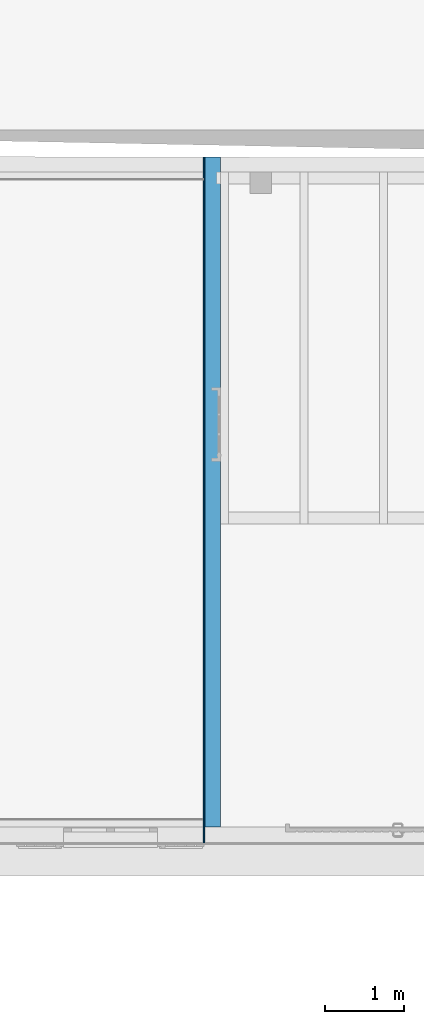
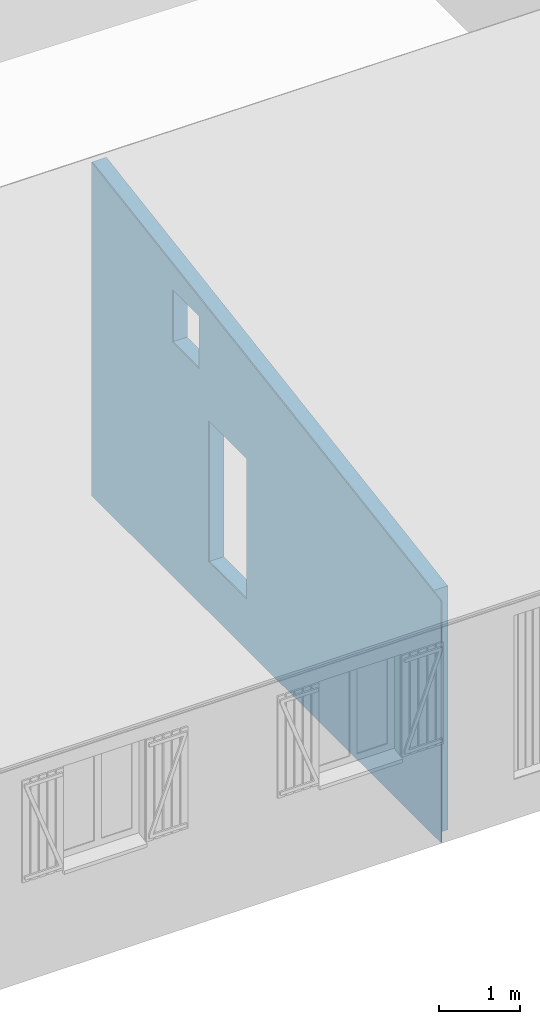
# One storey, part 10 of 12: 2 building element parts, 2 openings, 1 element without a shape of its own.
"""IFC2X3 building model written with IfcOpenShell, lengths in metres."""

import ifcopenshell
import ifcopenshell.guid

model = None  # the IFC model being written
_history = None  # IfcOwnerHistory: only IFC2X3 demands one
_inside = {}  # id of a spatial element -> (the spatial element, [elements in it])
_under = {}  # id of a project, library or spatial element -> (it, [spatial elements below it])
_declared = {}  # id of a project -> (the project, [libraries it declares])
_typed = {}  # id of a type object -> (the type object, [elements of that type])
_made_of = {}  # id of a material, layer set ... -> (it, [elements and type objects made of it])


def new_model(schema):
    """Start an empty IFC model of exactly this schema.

    Asked for "IFC4X3", IfcOpenShell would pick the latest addendum, in which some entities
    have other attributes; the version numbers below select the first issue.
    IFC2X3 requires an IfcOwnerHistory on every rooted entity: one is made here for all.
    """
    global model, _history
    if schema == "IFC4X3":
        model = ifcopenshell.file(schema_version=(4, 3, 0, 0))
    else:
        model = ifcopenshell.file(schema=schema)
    _inside.clear()
    _under.clear()
    _declared.clear()
    _typed.clear()
    _made_of.clear()
    _history = None
    if model.schema == "IFC2X3":
        org = make("IfcOrganization", Name="unknown")
        user = make(
            "IfcPersonAndOrganization",
            ThePerson=make("IfcPerson", FamilyName="unknown"),
            TheOrganization=org,
        )
        app = make(
            "IfcApplication",
            ApplicationDeveloper=org,
            Version="unknown",
            ApplicationFullName="unknown",
            ApplicationIdentifier="unknown",
        )
        _history = make(
            "IfcOwnerHistory",
            OwningUser=user,
            OwningApplication=app,
            ChangeAction="ADDED",
            CreationDate=0,
        )
    return model


def make(cls, **values):
    """One entity of the class cls with the attributes given. An attribute that is None is left unset."""
    return model.create_entity(
        cls, **{name: value for name, value in values.items() if value is not None}
    )


def entity(cls, *values):
    """Any entity or typed value of the class cls, its attributes in the order of the schema. None: left unset."""
    e = model.create_entity(cls)
    for i, value in enumerate(values):
        if value is not None:
            e[i] = value
    return e


def rooted(cls, **values):
    """An entity with a GlobalId (a new one), such as an element, a storey or a relation."""
    return make(cls, GlobalId=ifcopenshell.guid.new(), OwnerHistory=_history, **values)


def si_unit(unit_type, name, prefix=None):
    """IfcSIUnit, for example si_unit("LENGTHUNIT", "METRE", prefix="MILLI")."""
    return make("IfcSIUnit", UnitType=unit_type, Prefix=prefix, Name=name)


def converted_unit(unit_type, name, factor, base, dimensions=None, offset=None):
    """IfcConversionBasedUnit, such as the inch: factor (a typed value) times the base unit."""
    return make(
        "IfcConversionBasedUnit"
        if offset is None
        else "IfcConversionBasedUnitWithOffset",
        ConversionOffset=offset,
        Dimensions=None
        if dimensions is None
        else entity("IfcDimensionalExponents", *dimensions),
        UnitType=unit_type,
        Name=name,
        ConversionFactor=make(
            "IfcMeasureWithUnit", ValueComponent=factor, UnitComponent=base
        ),
    )


def derived_unit(unit_type, elements):
    """IfcDerivedUnit: a product of units, each with its exponent."""
    return make(
        "IfcDerivedUnit",
        Elements=[
            make("IfcDerivedUnitElement", Unit=unit, Exponent=power)
            for unit, power in elements
        ],
        UnitType=unit_type,
    )


def money_unit(currency):
    """IfcMonetaryUnit."""
    return make("IfcMonetaryUnit", Currency=currency)


def assignment(units):
    """IfcUnitAssignment: the units of a project."""
    return None if units is None else make("IfcUnitAssignment", Units=units)


def point(xyz):
    """IfcCartesianPoint."""
    return None if xyz is None else make("IfcCartesianPoint", Coordinates=xyz)


def direction(xyz):
    """IfcDirection."""
    return None if xyz is None else make("IfcDirection", DirectionRatios=xyz)


def frame(location, z_axis=None, x_axis=None):
    """IfcAxis2Placement3D, a coordinate frame: its origin and axes. An axis left out is left unset."""
    return make(
        "IfcAxis2Placement3D",
        Location=point(location),
        Axis=direction(z_axis),
        RefDirection=direction(x_axis),
    )


def frame_2d(location, x_axis=None):
    """IfcAxis2Placement2D, a coordinate frame in the plane: its origin and x axis."""
    return make(
        "IfcAxis2Placement2D", Location=point(location), RefDirection=direction(x_axis)
    )


def origin_with_axes():
    """The frame at (0, 0, 0) with the z axis (0, 0, 1) and the x axis (1, 0, 0) written out."""
    return frame((0.0, 0.0, 0.0), z_axis=(0.0, 0.0, 1.0), x_axis=(1.0, 0.0, 0.0))


def origin_2d_with_axis():
    """The frame at (0, 0) in the plane with the x axis (1, 0) written out."""
    return frame_2d((0.0, 0.0), x_axis=(1.0, 0.0))


def place(relative_to, where):
    """IfcLocalPlacement: puts the frame where relative to a parent placement (None: the world)."""
    return make(
        "IfcLocalPlacement", PlacementRelTo=relative_to, RelativePlacement=where
    )


def context(
    kind, dimensions, precision=None, world=None, true_north=None, identifier=None
):
    """IfcGeometricRepresentationContext, for example the 3D "Model" context."""
    return make(
        "IfcGeometricRepresentationContext",
        ContextIdentifier=identifier,
        ContextType=kind,
        CoordinateSpaceDimension=dimensions,
        Precision=precision,
        WorldCoordinateSystem=world,
        TrueNorth=true_north,
    )


def subcontext(parent, identifier, kind, view, scale=None):
    """IfcGeometricRepresentationSubContext, for example "Body" below "Model"."""
    return make(
        "IfcGeometricRepresentationSubContext",
        ContextIdentifier=identifier,
        ContextType=kind,
        ParentContext=parent,
        TargetScale=scale,
        TargetView=view,
    )


def project(units=None, contexts=None):
    """IfcProject with its units and contexts."""
    return rooted(
        "IfcProject",
        Name="project",
        RepresentationContexts=contexts,
        UnitsInContext=assignment(units),
    )


def spatial(cls, under=None, at=None, **own):
    """A site, building, storey or space (cls), placed at a placement, below another one or the project."""
    s = rooted(cls, ObjectPlacement=at, **own)
    if under is not None:
        _under.setdefault(under.id(), (under, []))[1].append(s)
    return s


def polyline(points):
    """IfcPolyline through the points."""
    return make("IfcPolyline", Points=[point(p) for p in points])


def profile(cls, at=None, kind="AREA", **sizes):
    """A parametric profile (cls). Its sizes go by their IFC names, for example OverallWidth=200.0."""
    return make(cls, ProfileType=kind, Position=at, **sizes)


def rectangle(**sizes):
    """IfcRectangleProfileDef."""
    return profile("IfcRectangleProfileDef", **sizes)


def outline(outer, holes=None, kind="AREA"):
    """IfcArbitraryClosedProfileDef: a profile drawn as a closed curve; with holes, ...WithVoids."""
    if holes is None:
        return make("IfcArbitraryClosedProfileDef", ProfileType=kind, OuterCurve=outer)
    return make(
        "IfcArbitraryProfileDefWithVoids",
        ProfileType=kind,
        OuterCurve=outer,
        InnerCurves=holes,
    )


def extrude(swept, where, along, depth):
    """IfcExtrudedAreaSolid: the profile swept, set in the frame where, extruded along a direction by depth."""
    return make(
        "IfcExtrudedAreaSolid",
        SweptArea=swept,
        Position=where,
        ExtrudedDirection=direction(along),
        Depth=depth,
    )


def boolean(op, a, b):
    """IfcBooleanResult of two solids."""
    return make("IfcBooleanResult", Operator=op, FirstOperand=a, SecondOperand=b)


def faces_of(points, faces, orient=None, outer=None):
    """IfcFace entities. A face is a list of loops; a loop is a list of indices into points, from 0.

    orient and outer hold one flag for each loop. By default every Orientation is true, the
    first loop of a face is its IfcFaceOuterBound and the others are IfcFaceBound.
    """
    made = []
    for i, loops in enumerate(faces):
        bounds = []
        for j, loop in enumerate(loops):
            is_outer = j == 0 if outer is None else outer[i][j]
            bounds.append(
                make(
                    "IfcFaceOuterBound" if is_outer else "IfcFaceBound",
                    Bound=make("IfcPolyLoop", Polygon=[points[k] for k in loop]),
                    Orientation=True if orient is None else orient[i][j],
                )
            )
        made.append(make("IfcFace", Bounds=bounds))
    return made


def faceted_brep(points, faces, orient=None, outer=None, voids=None):
    """IfcFacetedBrep: a solid bounded by flat faces; with voids (closed shells), ...WithVoids."""
    shared = [point(p) for p in points]
    hull = make("IfcClosedShell", CfsFaces=faces_of(shared, faces, orient, outer))
    if voids is None:
        return make("IfcFacetedBrep", Outer=hull)
    return make(
        "IfcFacetedBrepWithVoids",
        Outer=hull,
        Voids=[
            make(cls, CfsFaces=faces_of(shared, fs, o, b)) for cls, fs, o, b in voids
        ],
    )


def shape(context_of_items, identifier, shape_type, items):
    """IfcShapeRepresentation: the items that make up one representation, for example the "Body"."""
    return make(
        "IfcShapeRepresentation",
        ContextOfItems=context_of_items,
        RepresentationIdentifier=identifier,
        RepresentationType=shape_type,
        Items=items,
    )


def material(Name=None, Category=None):
    """IfcMaterial."""
    return make("IfcMaterial", Name=Name, Category=Category)


def made_of(thing, what):
    """Note that an element or type object is made of a material, layer set ...; save() writes the relation."""
    if what is not None:
        _made_of.setdefault(what.id(), (what, []))[1].append(thing)
    return thing


def type_object(cls, material=None, **own):
    """A type object (cls), such as IfcWallType, which elements share."""
    return made_of(rooted(cls, **own), material)


def element(
    cls,
    number,
    at=None,
    inside=None,
    cuts=None,
    type_object=None,
    material=None,
    context=None,
    identifier="Body",
    shape_type=None,
    held_by="IfcProductDefinitionShape",
    body=None,
    shapes=None,
    **own,
):
    """One element of the class cls, such as IfcWall. Its Tag is "e" and its number.

    at: its placement. inside: the storey or other place that contains it. cuts: it is an
    opening in that element (IfcRelVoidsElement). A single representation is given by context,
    identifier, shape_type and body (its items); several are given by shapes. held_by: the class
    of the entity that holds the representations. save() writes the other relations.
    """
    e = rooted(cls, Tag="e%d" % number, ObjectPlacement=at, **own)
    if body is not None:
        shapes = [shape(context, identifier, shape_type, body)]
    if shapes is not None:
        e.Representation = make(held_by, Representations=shapes)
    if inside is not None:
        _inside.setdefault(inside.id(), (inside, []))[1].append(e)
    if cuts is not None:
        rooted(
            "IfcRelVoidsElement", RelatingBuildingElement=cuts, RelatedOpeningElement=e
        )
    if type_object is not None:
        _typed.setdefault(type_object.id(), (type_object, []))[1].append(e)
    return made_of(e, material)


def aggregate(whole, parts):
    """IfcRelAggregates: a whole, such as a stair, and the parts it consists of."""
    return rooted("IfcRelAggregates", RelatingObject=whole, RelatedObjects=parts)


def save(model, path):
    """Write the relations noted so far, then the file.

    IfcRelAggregates (storeys below a building ...), IfcRelContainedInSpatialStructure (elements
    in a storey), IfcRelDefinesByType, IfcRelAssociatesMaterial and IfcRelDeclares: one each for
    every whole, place, type object, material and project.
    """
    for whole, parts in _under.values():
        aggregate(whole, parts)
    for where, things in _inside.values():
        rooted(
            "IfcRelContainedInSpatialStructure",
            RelatedElements=things,
            RelatingStructure=where,
        )
    for kind, things in _typed.values():
        rooted("IfcRelDefinesByType", RelatedObjects=things, RelatingType=kind)
    for what, things in _made_of.values():
        rooted("IfcRelAssociatesMaterial", RelatedObjects=things, RelatingMaterial=what)
    for by, libraries in _declared.values():
        rooted("IfcRelDeclares", RelatingContext=by, RelatedDefinitions=libraries)
    model.write(path)


model = new_model("IFC2X3")

# Units and contexts
model_context = context("Model", 3, precision=1e-05, world=origin_with_axes(), true_north=direction((0.0, 1.0)))
body_context = subcontext(model_context, "Body", "Model", "MODEL_VIEW")
ifc_project = project(units=[si_unit("LENGTHUNIT", "METRE"), si_unit("AREAUNIT", "SQUARE_METRE"), si_unit("VOLUMEUNIT", "CUBIC_METRE"), converted_unit("PLANEANGLEUNIT", "DEGREE", entity("IfcPlaneAngleMeasure", 0.0174532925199), si_unit("PLANEANGLEUNIT", "RADIAN"), dimensions=[0, 0, 0, 0, 0, 0, 0]), si_unit("SOLIDANGLEUNIT", "STERADIAN"), money_unit("CHF"), converted_unit("TIMEUNIT", "Year", entity("IfcTimeMeasure", 31556926.0), si_unit("TIMEUNIT", "SECOND"), dimensions=[0, 0, 1, 0, 0, 0, 0]), si_unit("MASSUNIT", "GRAM", prefix="KILO"), si_unit("THERMODYNAMICTEMPERATUREUNIT", "DEGREE_CELSIUS"), si_unit("LUMINOUSINTENSITYUNIT", "LUMEN"), si_unit("ENERGYUNIT", "JOULE", prefix="MEGA"), derived_unit("THERMALCONDUCTANCEUNIT", [(si_unit("POWERUNIT", "WATT"), 1), (si_unit("LENGTHUNIT", "METRE"), -1), (si_unit("THERMODYNAMICTEMPERATUREUNIT", "KELVIN"), -1)]), derived_unit("SPECIFICHEATCAPACITYUNIT", [(si_unit("ENERGYUNIT", "JOULE"), 1), (si_unit("MASSUNIT", "GRAM", prefix="KILO"), -1), (si_unit("THERMODYNAMICTEMPERATUREUNIT", "KELVIN"), -1)]), derived_unit("MASSDENSITYUNIT", [(si_unit("MASSUNIT", "GRAM", prefix="KILO"), 1), (si_unit("VOLUMEUNIT", "CUBIC_METRE"), -1)])], contexts=[model_context])

# Site, building, storey
site_placement = place(None, origin_with_axes())
site = spatial("IfcSite", under=ifc_project, at=site_placement, Name="Site", CompositionType="ELEMENT")
building_placement = place(site_placement, origin_with_axes())
building = spatial("IfcBuilding", under=site, at=building_placement, Name="Bâtiment", CompositionType="ELEMENT")
storey_placement = place(building_placement, origin_with_axes())
storey = spatial("IfcBuildingStorey", under=building, at=storey_placement, Name="Rez-de-chaussée", CompositionType="ELEMENT", Elevation=0.0)

# Wall, openings, building element parts
wall_type = type_object("IfcWallType", Name="0.0 - Mur ext: revét ext + maçonnerie 215", PredefinedType="ELEMENTEDWALL")
wall_placement = place(storey_placement, frame((23.6021417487, 7.9529346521, -0.6), z_axis=(0.0, 0.0, 1.0), x_axis=(0.0, 1.0, 0.0)))
wall = element("IfcWall", 1, at=wall_placement, inside=storey, type_object=wall_type, Name="MUR_EXT-003", ObjectType="ELEMENTEDWALL")
opening_1_placement = place(wall_placement, frame((5.065, 0.0, 0.76), z_axis=(0.0, 0.0, 1.0), x_axis=(1.0, 0.0, 0.0)))
element("IfcOpeningElement", 2, at=opening_1_placement, cuts=wall, Name="PORTE-004", context=body_context, shape_type="SweptSolid", body=[
    extrude(rectangle(XDim=0.93, YDim=2.12, at=origin_2d_with_axis()), frame((0.0, 0.215, 1.06), z_axis=(0.0, 1.0, 0.0), x_axis=(1.0, 0.0, 0.0)), (0.0, 0.0, -1.0), 0.645),
])
opening_2_placement = place(wall_placement, frame((-7.9529346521, 23.6021417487, 0.6), z_axis=(0.0, 0.0, 1.0), x_axis=(0.0, -1.0, 0.0)))
element("IfcOpeningElement", 3, at=opening_2_placement, cuts=wall, Name="PERCEMENT-002", ObjectType="EMPTY_OPENING", context=body_context, shape_type="SweptSolid", body=[
    extrude(rectangle(XDim=0.656363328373, YDim=0.787970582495, at=origin_2d_with_axis()), frame((23.8171417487, 14.0536985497, 3.31823561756), z_axis=(1.0, 0.0, 0.0), x_axis=(0.0, 1.0, 0.0)), (0.0, 0.0, -1.0), 0.645),
])
ifc_material_1 = material(Name="Brique ciment (extérieur)")
building_element_part_1_placement = place(wall_placement, origin_with_axes())
solid_1 = boolean("DIFFERENCE", boolean("DIFFERENCE", boolean("DIFFERENCE", boolean("DIFFERENCE", boolean("DIFFERENCE", boolean("DIFFERENCE", boolean("DIFFERENCE", boolean("DIFFERENCE", extrude(outline(polyline([(-0.215, 0.0), (8.455, 0.0), (8.455, 0.2), (-0.215, 0.2), (-0.215, 0.0)])), origin_with_axes(), (0.0, 0.0, 1.0), 5.5967588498), faceted_brep([(1.25499229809, 0.0, 3.87376334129), (1.28974915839, 0.0, 3.65652623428), (1.38849329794, 0.0, 3.67232480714), (1.35373643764, 0.0, 3.88956191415), (1.25499229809, 0.0879253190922, 3.87376334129), (1.28974915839, 0.0879253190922, 3.65652623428), (1.38849329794, 0.0879253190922, 3.67232480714), (1.35373643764, 0.0879253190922, 3.88956191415)], [[[0, 1, 2, 3]], [[1, 0, 4, 5]], [[2, 1, 5, 6]], [[3, 2, 6, 7]], [[0, 3, 7, 4]], [[4, 7, 6, 5]]])), faceted_brep([(2.53866611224, 0.0, 4.0791447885), (2.57342297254, 0.0, 3.86190768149), (2.67216711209, 0.0, 3.87770625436), (2.63741025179, 0.0, 4.09494336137), (2.53866611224, 0.0879253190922, 4.0791447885), (2.57342297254, 0.0879253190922, 3.86190768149), (2.67216711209, 0.0879253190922, 3.87770625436), (2.63741025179, 0.0879253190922, 4.09494336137)], [[[0, 1, 2, 3]], [[1, 0, 4, 5]], [[2, 1, 5, 6]], [[3, 2, 6, 7]], [[0, 3, 7, 4]], [[4, 7, 6, 5]]])), faceted_brep([(3.8223399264, 0.0, 4.28452623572), (3.85709678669, 0.0, 4.06728912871), (3.95584092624, 0.0, 4.08308770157), (3.92108406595, 0.0, 4.30032480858), (3.8223399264, 0.0879253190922, 4.28452623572), (3.85709678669, 0.0879253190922, 4.06728912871), (3.95584092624, 0.0879253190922, 4.08308770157), (3.92108406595, 0.0879253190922, 4.30032480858)], [[[0, 1, 2, 3]], [[1, 0, 4, 5]], [[2, 1, 5, 6]], [[3, 2, 6, 7]], [[0, 3, 7, 4]], [[4, 7, 6, 5]]])), faceted_brep([(5.10601374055, 0.0, 4.48990768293), (5.14077060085, 0.0, 4.27267057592), (5.2395147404, 0.0, 4.28846914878), (5.2047578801, 0.0, 4.5057062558), (5.10601374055, 0.0879253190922, 4.48990768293), (5.14077060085, 0.0879253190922, 4.27267057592), (5.2395147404, 0.0879253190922, 4.28846914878), (5.2047578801, 0.0879253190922, 4.5057062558)], [[[0, 1, 2, 3]], [[1, 0, 4, 5]], [[2, 1, 5, 6]], [[3, 2, 6, 7]], [[0, 3, 7, 4]], [[4, 7, 6, 5]]])), faceted_brep([(6.3896875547, 0.0, 4.69528913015), (6.424444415, 0.0, 4.47805202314), (6.52318855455, 0.0, 4.493850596), (6.48843169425, 0.0, 4.71108770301), (6.3896875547, 0.0879253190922, 4.69528913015), (6.424444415, 0.0879253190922, 4.47805202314), (6.52318855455, 0.0879253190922, 4.493850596), (6.48843169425, 0.0879253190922, 4.71108770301)], [[[0, 1, 2, 3]], [[1, 0, 4, 5]], [[2, 1, 5, 6]], [[3, 2, 6, 7]], [[0, 3, 7, 4]], [[4, 7, 6, 5]]])), faceted_brep([(7.65083260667, 0.0, 4.89706608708), (7.68558946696, 0.0, 4.67982898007), (7.78433360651, 0.0, 4.69562755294), (7.74957674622, 0.0, 4.91286465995), (7.65083260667, 0.0879253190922, 4.89706608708), (7.68558946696, 0.0879253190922, 4.67982898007), (7.78433360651, 0.0879253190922, 4.69562755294), (7.74957674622, 0.0879253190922, 4.91286465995)], [[[0, 1, 2, 3]], [[1, 0, 4, 5]], [[2, 1, 5, 6]], [[3, 2, 6, 7]], [[0, 3, 7, 4]], [[4, 7, 6, 5]]])), faceted_brep([(8.09, 0.0, 2.97156535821), (8.24, 0.0, 2.97156535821), (8.24, 0.0, 3.12156535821), (8.09, 0.0, 3.12156535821), (8.09, 0.0506873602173, 2.97156535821), (8.24, 0.0506873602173, 2.97156535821), (8.24, 0.0506873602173, 3.12156535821), (8.09, 0.0506873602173, 3.12156535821)], [[[0, 1, 2, 3]], [[1, 0, 4, 5]], [[2, 1, 5, 6]], [[3, 2, 6, 7]], [[0, 3, 7, 4]], [[7, 6, 5, 4]]])), faceted_brep([(0.0, 0.0, 0.0), (0.0, 0.0, 3.6743999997), (8.42601925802, 0.0, 5.02256308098), (8.4260192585, 0.0, 0.0), (8.455, 0.0, 0.0), (8.455, 0.0, 5.5967588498), (-0.215, 0.0, 5.5967588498), (-0.215, 0.0, 0.0), (0.0, 0.2, 0.0), (0.0, 0.2, 3.6743999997), (8.4264853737, 0.2, 5.02263765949), (8.42648537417, 0.2, 0.0), (8.455, 0.2, 0.0), (8.455, 0.2, 5.5967588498), (-0.215, 0.2, 5.5967588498), (-0.215, 0.2, 0.0)], [[[0, 1, 2, 3, 4, 5, 6, 7]], [[1, 0, 8, 9]], [[2, 1, 9, 10]], [[3, 2, 10, 11]], [[3, 11, 12, 4]], [[5, 4, 12, 13]], [[14, 6, 5, 13]], [[14, 15, 7, 6]], [[8, 0, 7, 15]], [[9, 8, 15, 14, 13, 12, 11, 10]]]))
building_element_part_1 = element("IfcBuildingElementPart", 4, at=building_element_part_1_placement, material=ifc_material_1, Name="Brique ciment (extérieur)", context=body_context, shape_type="CSG", body=[
    boolean("DIFFERENCE", solid_1, faceted_brep([(-0.2, 0.2, 3.6423999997), (8.4264853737, 0.2, 5.02263765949), (8.42648537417, 0.2, 0.0), (8.455, 0.2, 0.0), (8.455, 0.2, 5.5967588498), (-0.215, 0.2, 5.5967588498), (-0.215, 0.2, 0.0), (-0.2, 0.2, 0.0), (-0.2, 0.215, 3.6423999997), (8.42652033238, 0.215, 5.02264325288), (8.42652033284, 0.215, 0.0), (8.455, 0.215, 0.0), (8.455, 0.215, 5.5967588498), (-0.215, 0.215, 5.5967588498), (-0.215, 0.215, 0.0), (-0.2, 0.215, 0.0)], [[[0, 1, 2, 3, 4, 5, 6, 7]], [[1, 0, 8, 9]], [[10, 2, 1, 9]], [[2, 10, 11, 3]], [[4, 3, 11, 12]], [[13, 5, 4, 12]], [[13, 14, 6, 5]], [[15, 7, 6, 14]], [[0, 7, 15, 8]], [[8, 15, 14, 13, 12, 11, 10, 9]]])),
])
ifc_material_2 = material(Name="Finition ext - Crépis")
building_element_part_2_placement = place(wall_placement, origin_with_axes())
solid_2 = boolean("DIFFERENCE", boolean("DIFFERENCE", boolean("DIFFERENCE", boolean("DIFFERENCE", boolean("DIFFERENCE", boolean("DIFFERENCE", boolean("DIFFERENCE", boolean("DIFFERENCE", extrude(outline(polyline([(-0.215, 0.2), (8.455, 0.2), (8.455, 0.215), (-0.215, 0.215), (-0.215, 0.2)])), origin_with_axes(), (0.0, 0.0, 1.0), 5.5967588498), faceted_brep([(1.25499229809, 0.0, 3.87376334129), (1.28974915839, 0.0, 3.65652623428), (1.38849329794, 0.0, 3.67232480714), (1.35373643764, 0.0, 3.88956191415), (1.25499229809, 0.0879253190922, 3.87376334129), (1.28974915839, 0.0879253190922, 3.65652623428), (1.38849329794, 0.0879253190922, 3.67232480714), (1.35373643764, 0.0879253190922, 3.88956191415)], [[[0, 1, 2, 3]], [[1, 0, 4, 5]], [[2, 1, 5, 6]], [[3, 2, 6, 7]], [[0, 3, 7, 4]], [[4, 7, 6, 5]]])), faceted_brep([(2.53866611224, 0.0, 4.0791447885), (2.57342297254, 0.0, 3.86190768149), (2.67216711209, 0.0, 3.87770625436), (2.63741025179, 0.0, 4.09494336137), (2.53866611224, 0.0879253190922, 4.0791447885), (2.57342297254, 0.0879253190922, 3.86190768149), (2.67216711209, 0.0879253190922, 3.87770625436), (2.63741025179, 0.0879253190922, 4.09494336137)], [[[0, 1, 2, 3]], [[1, 0, 4, 5]], [[2, 1, 5, 6]], [[3, 2, 6, 7]], [[0, 3, 7, 4]], [[4, 7, 6, 5]]])), faceted_brep([(3.8223399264, 0.0, 4.28452623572), (3.85709678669, 0.0, 4.06728912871), (3.95584092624, 0.0, 4.08308770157), (3.92108406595, 0.0, 4.30032480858), (3.8223399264, 0.0879253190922, 4.28452623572), (3.85709678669, 0.0879253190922, 4.06728912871), (3.95584092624, 0.0879253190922, 4.08308770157), (3.92108406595, 0.0879253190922, 4.30032480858)], [[[0, 1, 2, 3]], [[1, 0, 4, 5]], [[2, 1, 5, 6]], [[3, 2, 6, 7]], [[0, 3, 7, 4]], [[4, 7, 6, 5]]])), faceted_brep([(5.10601374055, 0.0, 4.48990768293), (5.14077060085, 0.0, 4.27267057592), (5.2395147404, 0.0, 4.28846914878), (5.2047578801, 0.0, 4.5057062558), (5.10601374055, 0.0879253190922, 4.48990768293), (5.14077060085, 0.0879253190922, 4.27267057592), (5.2395147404, 0.0879253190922, 4.28846914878), (5.2047578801, 0.0879253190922, 4.5057062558)], [[[0, 1, 2, 3]], [[1, 0, 4, 5]], [[2, 1, 5, 6]], [[3, 2, 6, 7]], [[0, 3, 7, 4]], [[4, 7, 6, 5]]])), faceted_brep([(6.3896875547, 0.0, 4.69528913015), (6.424444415, 0.0, 4.47805202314), (6.52318855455, 0.0, 4.493850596), (6.48843169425, 0.0, 4.71108770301), (6.3896875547, 0.0879253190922, 4.69528913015), (6.424444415, 0.0879253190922, 4.47805202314), (6.52318855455, 0.0879253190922, 4.493850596), (6.48843169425, 0.0879253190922, 4.71108770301)], [[[0, 1, 2, 3]], [[1, 0, 4, 5]], [[2, 1, 5, 6]], [[3, 2, 6, 7]], [[0, 3, 7, 4]], [[4, 7, 6, 5]]])), faceted_brep([(7.65083260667, 0.0, 4.89706608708), (7.68558946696, 0.0, 4.67982898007), (7.78433360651, 0.0, 4.69562755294), (7.74957674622, 0.0, 4.91286465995), (7.65083260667, 0.0879253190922, 4.89706608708), (7.68558946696, 0.0879253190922, 4.67982898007), (7.78433360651, 0.0879253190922, 4.69562755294), (7.74957674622, 0.0879253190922, 4.91286465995)], [[[0, 1, 2, 3]], [[1, 0, 4, 5]], [[2, 1, 5, 6]], [[3, 2, 6, 7]], [[0, 3, 7, 4]], [[4, 7, 6, 5]]])), faceted_brep([(8.09, 0.0, 2.97156535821), (8.24, 0.0, 2.97156535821), (8.24, 0.0, 3.12156535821), (8.09, 0.0, 3.12156535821), (8.09, 0.0506873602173, 2.97156535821), (8.24, 0.0506873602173, 2.97156535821), (8.24, 0.0506873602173, 3.12156535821), (8.09, 0.0506873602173, 3.12156535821)], [[[0, 1, 2, 3]], [[1, 0, 4, 5]], [[2, 1, 5, 6]], [[3, 2, 6, 7]], [[0, 3, 7, 4]], [[7, 6, 5, 4]]])), faceted_brep([(0.0, 0.0, 0.0), (0.0, 0.0, 3.6743999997), (8.42601925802, 0.0, 5.02256308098), (8.4260192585, 0.0, 0.0), (8.455, 0.0, 0.0), (8.455, 0.0, 5.5967588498), (-0.215, 0.0, 5.5967588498), (-0.215, 0.0, 0.0), (0.0, 0.2, 0.0), (0.0, 0.2, 3.6743999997), (8.4264853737, 0.2, 5.02263765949), (8.42648537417, 0.2, 0.0), (8.455, 0.2, 0.0), (8.455, 0.2, 5.5967588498), (-0.215, 0.2, 5.5967588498), (-0.215, 0.2, 0.0)], [[[0, 1, 2, 3, 4, 5, 6, 7]], [[1, 0, 8, 9]], [[2, 1, 9, 10]], [[3, 2, 10, 11]], [[3, 11, 12, 4]], [[5, 4, 12, 13]], [[14, 6, 5, 13]], [[14, 15, 7, 6]], [[8, 0, 7, 15]], [[9, 8, 15, 14, 13, 12, 11, 10]]]))
building_element_part_2 = element("IfcBuildingElementPart", 5, at=building_element_part_2_placement, material=ifc_material_2, Name="Finition ext - Crépis", context=body_context, shape_type="CSG", body=[
    boolean("DIFFERENCE", solid_2, faceted_brep([(-0.2, 0.2, 3.6423999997), (8.4264853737, 0.2, 5.02263765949), (8.42648537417, 0.2, 0.0), (8.455, 0.2, 0.0), (8.455, 0.2, 5.5967588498), (-0.215, 0.2, 5.5967588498), (-0.215, 0.2, 0.0), (-0.2, 0.2, 0.0), (-0.2, 0.215, 3.6423999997), (8.42652033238, 0.215, 5.02264325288), (8.42652033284, 0.215, 0.0), (8.455, 0.215, 0.0), (8.455, 0.215, 5.5967588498), (-0.215, 0.215, 5.5967588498), (-0.215, 0.215, 0.0), (-0.2, 0.215, 0.0)], [[[0, 1, 2, 3, 4, 5, 6, 7]], [[1, 0, 8, 9]], [[10, 2, 1, 9]], [[2, 10, 11, 3]], [[4, 3, 11, 12]], [[13, 5, 4, 12]], [[13, 14, 6, 5]], [[15, 7, 6, 14]], [[0, 7, 15, 8]], [[8, 15, 14, 13, 12, 11, 10, 9]]])),
])
aggregate(wall, [building_element_part_1, building_element_part_2])

save(model, "model.ifc")
